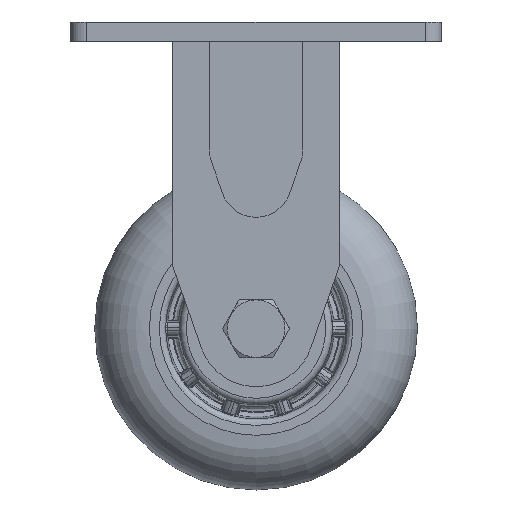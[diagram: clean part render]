
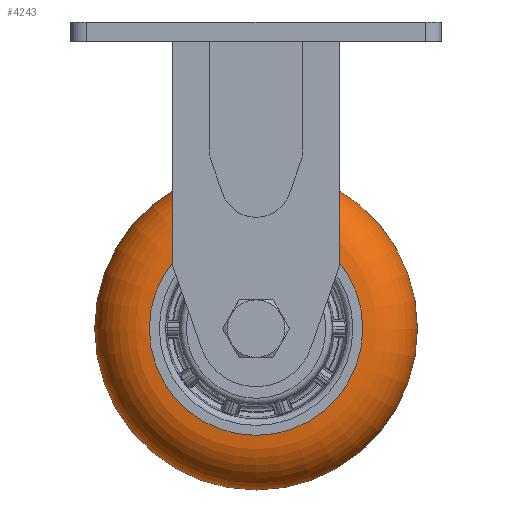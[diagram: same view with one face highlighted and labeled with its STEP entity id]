
A CAD part, front view. The second image highlights one B-rep face of the part: STEP entity #4243.
In plain terms, the highlighted toroidal (fillet/blend) face has major radius 33.066 mm and minor radius 16.934 mm.
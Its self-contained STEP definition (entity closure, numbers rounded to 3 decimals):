
#397=TOROIDAL_SURFACE('',#13992,33.066,16.934);
#4243=ADVANCED_FACE('',(#5209,#5210),#397,.T.);
#5209=FACE_BOUND('',#5586,.T.);
#5210=FACE_BOUND('',#5587,.T.);
#5586=EDGE_LOOP('',(#7650));
#5587=EDGE_LOOP('',(#7651));
#7650=ORIENTED_EDGE('',*,*,#12181,.F.);
#7651=ORIENTED_EDGE('',*,*,#12183,.F.);
#10701=VERTEX_POINT('',#18443);
#10703=VERTEX_POINT('',#18448);
#12181=EDGE_CURVE('',#10701,#10701,#13570,.T.);
#12183=EDGE_CURVE('',#10703,#10703,#13572,.T.);
#13570=CIRCLE('',#13988,50.);
#13572=CIRCLE('',#13991,33.066);
#13988=AXIS2_PLACEMENT_3D('',#18442,#15301,#15302);
#13991=AXIS2_PLACEMENT_3D('',#18447,#15307,#15308);
#13992=AXIS2_PLACEMENT_3D('',#18449,#15309,#15310);
#15301=DIRECTION('',(0.,1.,0.));
#15302=DIRECTION('',(-1.,0.,0.));
#15307=DIRECTION('',(0.,-1.,0.));
#15308=DIRECTION('',(-1.,0.,0.));
#15309=DIRECTION('',(0.,-1.,0.));
#15310=DIRECTION('',(-1.,0.,0.));
#18442=CARTESIAN_POINT('',(0.024,-5.466,-95.));
#18443=CARTESIAN_POINT('',(-49.976,-5.466,-95.));
#18447=CARTESIAN_POINT('',(0.024,-22.4,-95.));
#18448=CARTESIAN_POINT('',(-33.042,-22.4,-95.));
#18449=CARTESIAN_POINT('',(0.024,-5.466,-95.));
